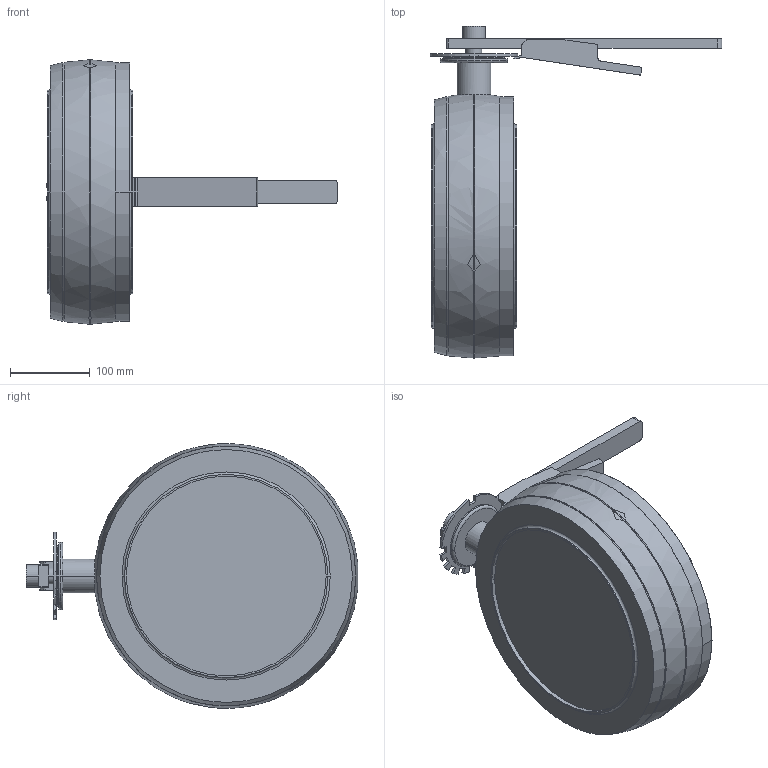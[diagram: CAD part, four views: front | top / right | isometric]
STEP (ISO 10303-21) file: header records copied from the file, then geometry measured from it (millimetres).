
FILE_DESCRIPTION(('Creo Elements/Direct Modeling STEP Export'),'2;1');
FILE_NAME('SVS1F-250-H-12S.stp','2019-12-09T10:38:37',(''),(''),'PTC Creo Elements/Direct Modeling STEP processor for AP214 (Solid Model)','PTC Creo Elements/Direct Modeling 19.0B 21-Mar-2015 (C) Parametric Technology GmbH','');
FILE_SCHEMA(('AUTOMOTIVE_DESIGN { 1 0 10303 214 1 1 1 1 }'));
Length unit declared in the file: millimetre
Products named in the file (2): SVS1F-250-H-12S
Assembly tree (1 placements, depth 2):
  SVS1F-250-H-12S
    SVS1F-250-H-12S
Bounding box: 364.76 x 415.28 x 330.92 mm (x, y, z)
Volume: 8554154.9 mm3; surface area: 344330.8 mm2
Topology: 1 solids, 1 shells, 126 faces, 320 edges, 209 vertices
Faces by surface type: plane 60, cylinder 45, torus 12, cone 6, sphere 3
Entity records: 3710 total; most frequent: CARTESIAN_POINT 703, ORIENTED_EDGE 640, DIRECTION 603, EDGE_CURVE 320, AXIS2_PLACEMENT_3D 213, VERTEX_POINT 209, VECTOR 177, LINE 177
